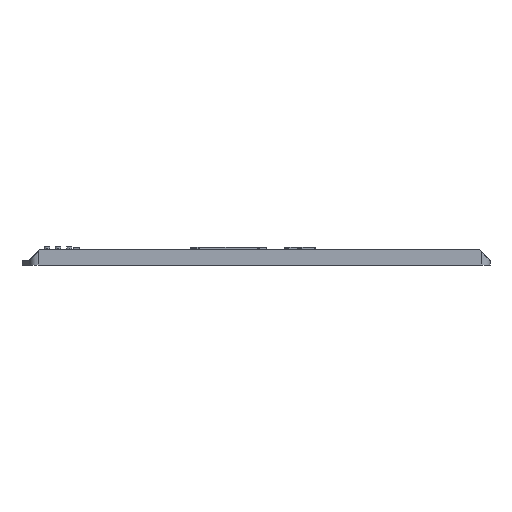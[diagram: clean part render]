
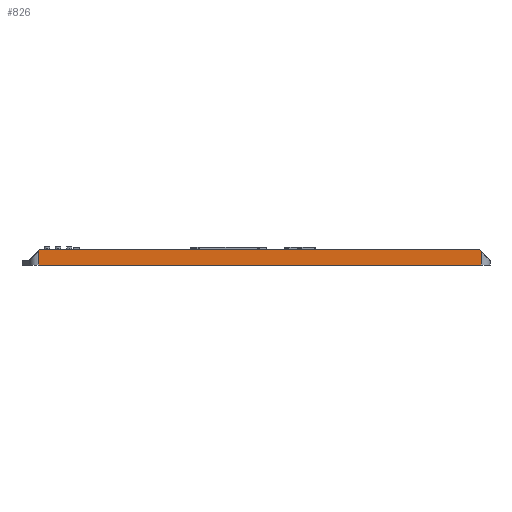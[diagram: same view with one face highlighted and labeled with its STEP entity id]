
A CAD part, left-side view. The second image highlights one B-rep face of the part: STEP entity #826.
In plain terms, the highlighted planar face has unit normal (-1, 0, 0).
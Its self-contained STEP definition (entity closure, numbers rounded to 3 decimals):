
#44 = CYLINDRICAL_SURFACE('',#45,2.);
#45 = AXIS2_PLACEMENT_3D('',#46,#47,#48);
#46 = CARTESIAN_POINT('',(-69.68,-49.6,-1.));
#47 = DIRECTION('',(0.,0.,-1.));
#48 = DIRECTION('',(-1.,0.,0.));
#72 = PLANE('',#73);
#73 = AXIS2_PLACEMENT_3D('',#74,#75,#76);
#74 = CARTESIAN_POINT('',(-71.68,51.6,0.));
#75 = DIRECTION('',(0.,0.,-1.));
#76 = DIRECTION('',(0.,-1.,0.));
#126 = PLANE('',#127);
#127 = AXIS2_PLACEMENT_3D('',#128,#129,#130);
#128 = CARTESIAN_POINT('',(-71.68,-51.6,1.1));
#129 = DIRECTION('',(0.,-0.707,0.707));
#130 = DIRECTION('',(0.,0.707,0.707));
#142 = VERTEX_POINT('',#143);
#143 = CARTESIAN_POINT('',(-71.68,-49.6,0.));
#167 = VERTEX_POINT('',#168);
#168 = CARTESIAN_POINT('',(-71.68,-49.6,3.1));
#196 = EDGE_CURVE('',#142,#167,#197,.T.);
#197 = SURFACE_CURVE('',#198,(#202,#209),.PCURVE_S1.);
#198 = LINE('',#199,#200);
#199 = CARTESIAN_POINT('',(-71.68,-49.6,-1.));
#200 = VECTOR('',#201,1.);
#201 = DIRECTION('',(0.,0.,1.));
#202 = PCURVE('',#44,#203);
#203 = DEFINITIONAL_REPRESENTATION('',(#204),#208);
#204 = LINE('',#205,#206);
#205 = CARTESIAN_POINT('',(6.283,0.));
#206 = VECTOR('',#207,1.);
#207 = DIRECTION('',(0.,-1.));
#208 = ( GEOMETRIC_REPRESENTATION_CONTEXT(2) 
PARAMETRIC_REPRESENTATION_CONTEXT() REPRESENTATION_CONTEXT('2D SPACE',''
  ) );
#209 = PCURVE('',#210,#215);
#210 = PLANE('',#211);
#211 = AXIS2_PLACEMENT_3D('',#212,#213,#214);
#212 = CARTESIAN_POINT('',(-71.68,0.,1.668));
#213 = DIRECTION('',(-1.,0.,-0.));
#214 = DIRECTION('',(0.,-1.,0.));
#215 = DEFINITIONAL_REPRESENTATION('',(#216),#220);
#216 = LINE('',#217,#218);
#217 = CARTESIAN_POINT('',(49.6,-2.668));
#218 = VECTOR('',#219,1.);
#219 = DIRECTION('',(0.,1.));
#220 = ( GEOMETRIC_REPRESENTATION_CONTEXT(2) 
PARAMETRIC_REPRESENTATION_CONTEXT() REPRESENTATION_CONTEXT('2D SPACE',''
  ) );
#286 = VERTEX_POINT('',#287);
#287 = CARTESIAN_POINT('',(-71.68,-49.3,3.4));
#301 = PLANE('',#302);
#302 = AXIS2_PLACEMENT_3D('',#303,#304,#305);
#303 = CARTESIAN_POINT('',(-71.68,-49.3,3.4));
#304 = DIRECTION('',(0.,0.,1.));
#305 = DIRECTION('',(0.,1.,0.));
#313 = EDGE_CURVE('',#167,#286,#314,.T.);
#314 = SURFACE_CURVE('',#315,(#319,#326),.PCURVE_S1.);
#315 = LINE('',#316,#317);
#316 = CARTESIAN_POINT('',(-71.68,-51.6,1.1));
#317 = VECTOR('',#318,1.);
#318 = DIRECTION('',(0.,0.707,0.707));
#319 = PCURVE('',#126,#320);
#320 = DEFINITIONAL_REPRESENTATION('',(#321),#325);
#321 = LINE('',#322,#323);
#322 = CARTESIAN_POINT('',(0.,0.));
#323 = VECTOR('',#324,1.);
#324 = DIRECTION('',(1.,0.));
#325 = ( GEOMETRIC_REPRESENTATION_CONTEXT(2) 
PARAMETRIC_REPRESENTATION_CONTEXT() REPRESENTATION_CONTEXT('2D SPACE',''
  ) );
#326 = PCURVE('',#210,#327);
#327 = DEFINITIONAL_REPRESENTATION('',(#328),#332);
#328 = LINE('',#329,#330);
#329 = CARTESIAN_POINT('',(51.6,-0.568));
#330 = VECTOR('',#331,1.);
#331 = DIRECTION('',(-0.707,0.707));
#332 = ( GEOMETRIC_REPRESENTATION_CONTEXT(2) 
PARAMETRIC_REPRESENTATION_CONTEXT() REPRESENTATION_CONTEXT('2D SPACE',''
  ) );
#387 = EDGE_CURVE('',#388,#142,#390,.T.);
#388 = VERTEX_POINT('',#389);
#389 = CARTESIAN_POINT('',(-71.68,49.6,0.));
#390 = SURFACE_CURVE('',#391,(#395,#402),.PCURVE_S1.);
#391 = LINE('',#392,#393);
#392 = CARTESIAN_POINT('',(-71.68,51.6,0.));
#393 = VECTOR('',#394,1.);
#394 = DIRECTION('',(0.,-1.,0.));
#395 = PCURVE('',#72,#396);
#396 = DEFINITIONAL_REPRESENTATION('',(#397),#401);
#397 = LINE('',#398,#399);
#398 = CARTESIAN_POINT('',(0.,-0.));
#399 = VECTOR('',#400,1.);
#400 = DIRECTION('',(1.,0.));
#401 = ( GEOMETRIC_REPRESENTATION_CONTEXT(2) 
PARAMETRIC_REPRESENTATION_CONTEXT() REPRESENTATION_CONTEXT('2D SPACE',''
  ) );
#402 = PCURVE('',#210,#403);
#403 = DEFINITIONAL_REPRESENTATION('',(#404),#408);
#404 = LINE('',#405,#406);
#405 = CARTESIAN_POINT('',(-51.6,-1.668));
#406 = VECTOR('',#407,1.);
#407 = DIRECTION('',(1.,0.));
#408 = ( GEOMETRIC_REPRESENTATION_CONTEXT(2) 
PARAMETRIC_REPRESENTATION_CONTEXT() REPRESENTATION_CONTEXT('2D SPACE',''
  ) );
#427 = CYLINDRICAL_SURFACE('',#428,2.);
#428 = AXIS2_PLACEMENT_3D('',#429,#430,#431);
#429 = CARTESIAN_POINT('',(-69.68,49.6,-1.));
#430 = DIRECTION('',(0.,0.,-1.));
#431 = DIRECTION('',(-1.,0.,0.));
#826 = ADVANCED_FACE('',(#827),#210,.T.);
#827 = FACE_BOUND('',#828,.T.);
#828 = EDGE_LOOP('',(#829,#830,#831,#832,#855,#883));
#829 = ORIENTED_EDGE('',*,*,#387,.T.);
#830 = ORIENTED_EDGE('',*,*,#196,.T.);
#831 = ORIENTED_EDGE('',*,*,#313,.T.);
#832 = ORIENTED_EDGE('',*,*,#833,.T.);
#833 = EDGE_CURVE('',#286,#834,#836,.T.);
#834 = VERTEX_POINT('',#835);
#835 = CARTESIAN_POINT('',(-71.68,49.3,3.4));
#836 = SURFACE_CURVE('',#837,(#841,#848),.PCURVE_S1.);
#837 = LINE('',#838,#839);
#838 = CARTESIAN_POINT('',(-71.68,-49.3,3.4));
#839 = VECTOR('',#840,1.);
#840 = DIRECTION('',(0.,1.,0.));
#841 = PCURVE('',#210,#842);
#842 = DEFINITIONAL_REPRESENTATION('',(#843),#847);
#843 = LINE('',#844,#845);
#844 = CARTESIAN_POINT('',(49.3,1.732));
#845 = VECTOR('',#846,1.);
#846 = DIRECTION('',(-1.,0.));
#847 = ( GEOMETRIC_REPRESENTATION_CONTEXT(2) 
PARAMETRIC_REPRESENTATION_CONTEXT() REPRESENTATION_CONTEXT('2D SPACE',''
  ) );
#848 = PCURVE('',#301,#849);
#849 = DEFINITIONAL_REPRESENTATION('',(#850),#854);
#850 = LINE('',#851,#852);
#851 = CARTESIAN_POINT('',(0.,0.));
#852 = VECTOR('',#853,1.);
#853 = DIRECTION('',(1.,0.));
#854 = ( GEOMETRIC_REPRESENTATION_CONTEXT(2) 
PARAMETRIC_REPRESENTATION_CONTEXT() REPRESENTATION_CONTEXT('2D SPACE',''
  ) );
#855 = ORIENTED_EDGE('',*,*,#856,.T.);
#856 = EDGE_CURVE('',#834,#857,#859,.T.);
#857 = VERTEX_POINT('',#858);
#858 = CARTESIAN_POINT('',(-71.68,49.6,3.1));
#859 = SURFACE_CURVE('',#860,(#864,#871),.PCURVE_S1.);
#860 = LINE('',#861,#862);
#861 = CARTESIAN_POINT('',(-71.68,49.3,3.4));
#862 = VECTOR('',#863,1.);
#863 = DIRECTION('',(0.,0.707,-0.707));
#864 = PCURVE('',#210,#865);
#865 = DEFINITIONAL_REPRESENTATION('',(#866),#870);
#866 = LINE('',#867,#868);
#867 = CARTESIAN_POINT('',(-49.3,1.732));
#868 = VECTOR('',#869,1.);
#869 = DIRECTION('',(-0.707,-0.707));
#870 = ( GEOMETRIC_REPRESENTATION_CONTEXT(2) 
PARAMETRIC_REPRESENTATION_CONTEXT() REPRESENTATION_CONTEXT('2D SPACE',''
  ) );
#871 = PCURVE('',#872,#877);
#872 = PLANE('',#873);
#873 = AXIS2_PLACEMENT_3D('',#874,#875,#876);
#874 = CARTESIAN_POINT('',(-71.68,49.3,3.4));
#875 = DIRECTION('',(-0.,0.707,0.707));
#876 = DIRECTION('',(0.,0.707,-0.707));
#877 = DEFINITIONAL_REPRESENTATION('',(#878),#882);
#878 = LINE('',#879,#880);
#879 = CARTESIAN_POINT('',(0.,0.));
#880 = VECTOR('',#881,1.);
#881 = DIRECTION('',(1.,0.));
#882 = ( GEOMETRIC_REPRESENTATION_CONTEXT(2) 
PARAMETRIC_REPRESENTATION_CONTEXT() REPRESENTATION_CONTEXT('2D SPACE',''
  ) );
#883 = ORIENTED_EDGE('',*,*,#884,.F.);
#884 = EDGE_CURVE('',#388,#857,#885,.T.);
#885 = SURFACE_CURVE('',#886,(#890,#897),.PCURVE_S1.);
#886 = LINE('',#887,#888);
#887 = CARTESIAN_POINT('',(-71.68,49.6,-1.));
#888 = VECTOR('',#889,1.);
#889 = DIRECTION('',(0.,0.,1.));
#890 = PCURVE('',#210,#891);
#891 = DEFINITIONAL_REPRESENTATION('',(#892),#896);
#892 = LINE('',#893,#894);
#893 = CARTESIAN_POINT('',(-49.6,-2.668));
#894 = VECTOR('',#895,1.);
#895 = DIRECTION('',(0.,1.));
#896 = ( GEOMETRIC_REPRESENTATION_CONTEXT(2) 
PARAMETRIC_REPRESENTATION_CONTEXT() REPRESENTATION_CONTEXT('2D SPACE',''
  ) );
#897 = PCURVE('',#427,#898);
#898 = DEFINITIONAL_REPRESENTATION('',(#899),#903);
#899 = LINE('',#900,#901);
#900 = CARTESIAN_POINT('',(0.,0.));
#901 = VECTOR('',#902,1.);
#902 = DIRECTION('',(0.,-1.));
#903 = ( GEOMETRIC_REPRESENTATION_CONTEXT(2) 
PARAMETRIC_REPRESENTATION_CONTEXT() REPRESENTATION_CONTEXT('2D SPACE',''
  ) );
